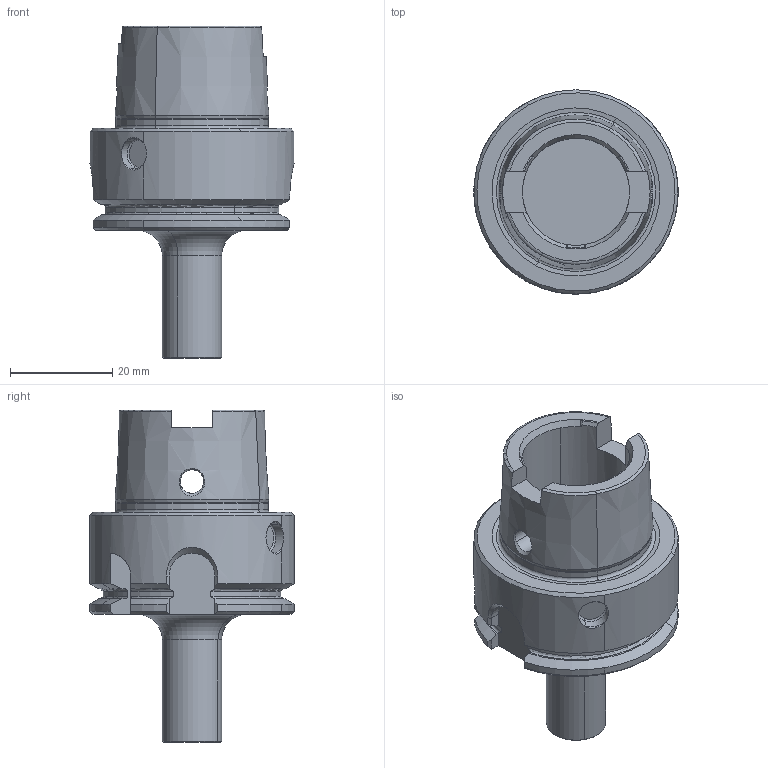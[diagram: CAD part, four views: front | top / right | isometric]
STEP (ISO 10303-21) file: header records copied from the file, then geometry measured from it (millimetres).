
FILE_DESCRIPTION(('CATIA V5 STEP','CAx-IF Rec.Pracs.--- Model Styling and Organization---1.2---2011-12-15'),'2;1');
FILE_NAME('N:\data\isr\design\special1\users\NATALY_B\Tal\NPA\3315508\MM S-A-H045-HSK A40-T08-L.stp','2017-03-09T12:00:14+00:00',('none'),('none'),'CATIA Version 5 Release 21 SP 5 (IN-10)','CATIA V5 STEP AP214','none');
FILE_SCHEMA(('AUTOMOTIVE_DESIGN { 1 0 10303 214 1 1 1 1 }'));
Length unit declared in the file: millimetre
Products named in the file (1): MM S-A-H045-HSK A40-T08
Bounding box: 40 x 40 x 65 mm (x, y, z)
Volume: 29892.2 mm3; surface area: 9716.4 mm2
Topology: 1 solids, 1 shells, 136 faces, 360 edges, 228 vertices
Faces by surface type: cone 41, plane 39, cylinder 27, torus 25, bspline 4
Entity records: 4457 total; most frequent: CARTESIAN_POINT 1555, ORIENTED_EDGE 720, DIRECTION 391, EDGE_CURVE 360, VERTEX_POINT 228, AXIS2_PLACEMENT_3D 209, CIRCLE 144, EDGE_LOOP 142
